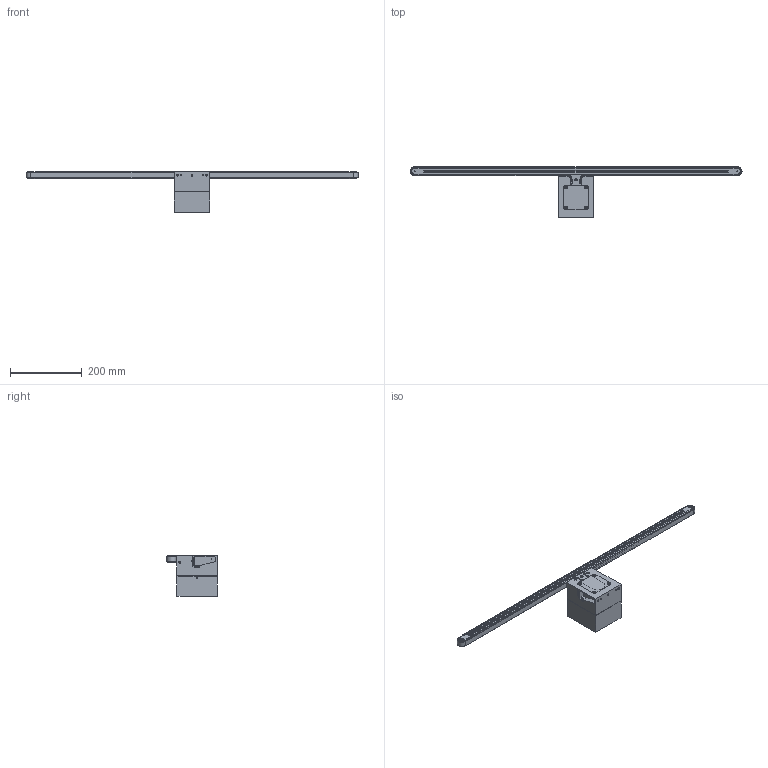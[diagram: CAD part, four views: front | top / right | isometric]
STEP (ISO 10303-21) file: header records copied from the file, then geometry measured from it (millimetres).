
FILE_DESCRIPTION(/* description */ (''),/* implementation_level */ '2;1');
FILE_NAME(/* name */ 'G:\DATEN\CAD\Förderband\Marketing\3D-Modelle (Standard)\FR-20-20-M\FR-20-20-M-900-K.stp',/* time_stamp */ '2019-03-27T16:34:00+01:00',/* author */ ('pia.schaefer'),/* organization */ (''),/* preprocessor_version */ 'ST-DEVELOPER v17',/* originating_system */ 'Autodesk Inventor 2019',/* authorisation */ '');
FILE_SCHEMA (('AUTOMOTIVE_DESIGN { 1 0 10303 214 3 1 1 }'));
Length unit declared in the file: millimetre
Products named in the file (1): FR-20-20-M-900-K
Bounding box: 925.6 x 140.3 x 114 mm (x, y, z)
Volume: 1474247.4 mm3; surface area: 393963.2 mm2
Topology: 33 solids, 36 shells, 970 faces, 2643 edges, 1785 vertices
Faces by surface type: plane 521, cylinder 234, bspline 122, cone 77, torus 16
Full cylindrical faces by diameter (mm): 1.6 x4, 2.459 x2, 3 x2, 3.5 x4, 4 x6, 4.134 x6, 4.3 x1, 4.5 x4, 4.917 x3, 5 x10, 5.2 x2, 5.5 x2, 6.5 x1, 6.647 x1, 6.773 x1, 7 x2, 8 x14, 8.773 x1, 9.43 x2, 9.6 x2, 10 x5, 11 x1, 22 x2, 24 x2
Entity records: 33255 total; most frequent: CARTESIAN_POINT 8162, ORIENTED_EDGE 5242, DIRECTION 4631, EDGE_CURVE 2621, VERTEX_POINT 1785, AXIS2_PLACEMENT_3D 1551, LINE 1529, VECTOR 1529
